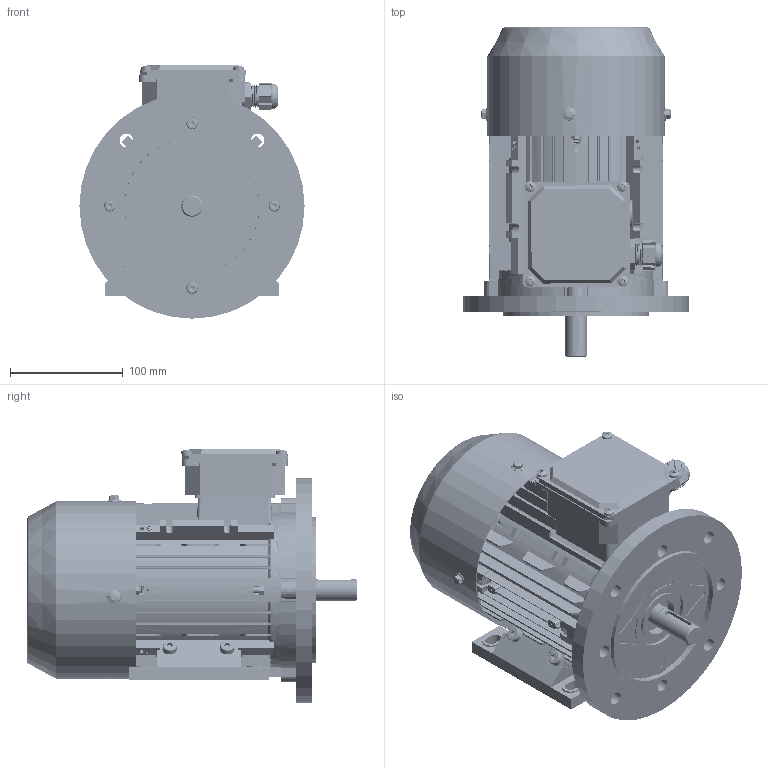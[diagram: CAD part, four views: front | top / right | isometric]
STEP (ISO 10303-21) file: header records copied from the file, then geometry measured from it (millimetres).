
FILE_DESCRIPTION (( 'STEP AP203' ), '1' );
FILE_NAME ('ME3-80B35 3Dͼ.STEP', '2024-05-18T06:55:02', ( 'User' ), ( 'China' ), 'SwSTEP 2.0', 'SolidWorks 2018', '' );
FILE_SCHEMA (( 'CONFIG_CONTROL_DESIGN' ));
Length unit declared in the file: millimetre
Products named in the file (21): ME3 80儂褲; hex nuts-style normal-grades ab gb_GB_HEXAGON_TYPE10 M8X1-C; hex lobular socket head cap screws-4.8 gb_GB_HEXAGON_TYPE21 M6X30-30-S; ME2  B3后瑞盖; ME2  80B5瑞盖; ME2  80瑞欶; ME2  80蛌粣; hex lobular socket head cap screws-4.8 gb_GB_HEXAGON_TYPE21 M6X40-40-C; hex flange bolts-heavy grade b gb_GB_FASTENER_BOLT_HFBB M5X10-C; MS63-71諉盄碟菁釱; ME3-80B35 3Dͼ; wave single coil spring lock washers gb_GB_FASTENER_WASHER_WSLW 6; 蹟杶郋M20X1.5; 黑芛20X1.5; 蹟簸M20X1.5; ME2 80菁褐; cross recessed pan head screws gb_GB_CROSS_SCREWS_TYPE1 M5X8-8  H type-C; hex lobular socket head cap screws-4.8 gb_GB_HEXAGON_TYPE21 M8X30-30-C; MS63-71諉盄碟裔; wave single coil spring lock washers gb_GB_FASTENER_WASHER_WSLW 8; hex nuts, style 2-grades ab gb_GB_HEXAGON_TYPE13 M5 Normal Style-C
Assembly tree (54 placements, depth 2):
  ME3-80B35 3Dͼ
    ME3 80儂褲
    ME2  B3后瑞盖
    ME2  80蛌粣
    MS63-71諉盄碟菁釱
    蹟杶郋M20X1.5
    蹟簸M20X1.5
    cross recessed pan head screws gb_GB_CROSS_SCREWS_TYPE1 M5X8-8  H type-C  x8
    MS63-71諉盄碟裔
    hex nuts, style 2-grades ab gb_GB_HEXAGON_TYPE13 M5 Normal Style-C  x7
    hex lobular socket head cap screws-4.8 gb_GB_HEXAGON_TYPE21 M6X30-30-S  x4
    ME2  80瑞欶
    hex flange bolts-heavy grade b gb_GB_FASTENER_BOLT_HFBB M5X10-C  x3
    wave single coil spring lock washers gb_GB_FASTENER_WASHER_WSLW 6  x4
    黑芛20X1.5
    ME2 80菁褐  x2
    hex lobular socket head cap screws-4.8 gb_GB_HEXAGON_TYPE21 M8X30-30-C  x4
    wave single coil spring lock washers gb_GB_FASTENER_WASHER_WSLW 8  x4
    hex nuts-style normal-grades ab gb_GB_HEXAGON_TYPE10 M8X1-C  x4
    ME2  80B5瑞盖
    hex lobular socket head cap screws-4.8 gb_GB_HEXAGON_TYPE21 M6X40-40-C  x4
Bounding box: 200 x 292.56 x 225 mm (x, y, z)
Volume: 1117262.6 mm3; surface area: 690046 mm2
Topology: 54 solids, 56 shells, 5561 faces, 14318 edges, 9017 vertices
Faces by surface type: plane 2597, cylinder 1390, cone 1135, bspline 218, torus 205, sphere 16
Entity records: 147291 total; most frequent: CARTESIAN_POINT 46530, ORIENTED_EDGE 21550, DIRECTION 18745, EDGE_CURVE 10775, VERTEX_POINT 7015, AXIS2_PLACEMENT_3D 6272, LINE 6201, VECTOR 6201
